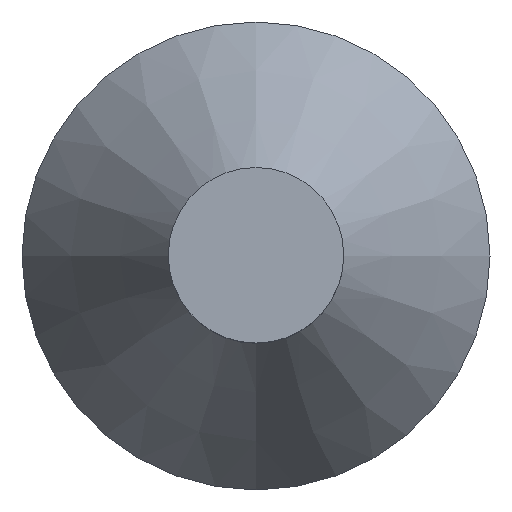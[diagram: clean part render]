
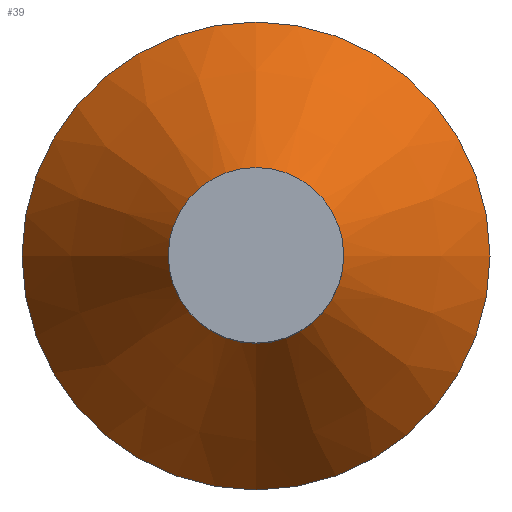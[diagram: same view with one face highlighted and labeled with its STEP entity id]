
A CAD part, top view. The second image highlights one B-rep face of the part: STEP entity #39.
In plain terms, the highlighted conical face has half-angle 32.005 degrees and reference radius 8 mm.
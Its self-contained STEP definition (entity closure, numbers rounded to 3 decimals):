
#39 = ADVANCED_FACE('',(#40),#53,.T.);
#40 = FACE_BOUND('',#41,.T.);
#41 = EDGE_LOOP('',(#42,#76,#99,#126));
#42 = ORIENTED_EDGE('',*,*,#43,.F.);
#43 = EDGE_CURVE('',#44,#44,#46,.T.);
#44 = VERTEX_POINT('',#45);
#45 = CARTESIAN_POINT('',(3.,0.,4.));
#46 = SURFACE_CURVE('',#47,(#52,#64),.PCURVE_S1.);
#47 = CIRCLE('',#48,3.);
#48 = AXIS2_PLACEMENT_3D('',#49,#50,#51);
#49 = CARTESIAN_POINT('',(0.,0.,4.));
#50 = DIRECTION('',(0.,0.,1.));
#51 = DIRECTION('',(1.,0.,-0.));
#52 = PCURVE('',#53,#58);
#53 = CONICAL_SURFACE('',#54,8.,0.559);
#54 = AXIS2_PLACEMENT_3D('',#55,#56,#57);
#55 = CARTESIAN_POINT('',(0.,0.,-4.));
#56 = DIRECTION('',(-0.,-0.,-1.));
#57 = DIRECTION('',(1.,0.,-0.));
#58 = DEFINITIONAL_REPRESENTATION('',(#59),#63);
#59 = LINE('',#60,#61);
#60 = CARTESIAN_POINT('',(-0.,-8.));
#61 = VECTOR('',#62,1.);
#62 = DIRECTION('',(-1.,-0.));
#63 = ( GEOMETRIC_REPRESENTATION_CONTEXT(2) 
PARAMETRIC_REPRESENTATION_CONTEXT() REPRESENTATION_CONTEXT('2D SPACE',''
  ) );
#64 = PCURVE('',#65,#70);
#65 = PLANE('',#66);
#66 = AXIS2_PLACEMENT_3D('',#67,#68,#69);
#67 = CARTESIAN_POINT('',(0.,0.,4.));
#68 = DIRECTION('',(0.,0.,1.));
#69 = DIRECTION('',(1.,0.,-0.));
#70 = DEFINITIONAL_REPRESENTATION('',(#71),#75);
#71 = CIRCLE('',#72,3.);
#72 = AXIS2_PLACEMENT_2D('',#73,#74);
#73 = CARTESIAN_POINT('',(0.,0.));
#74 = DIRECTION('',(1.,0.));
#75 = ( GEOMETRIC_REPRESENTATION_CONTEXT(2) 
PARAMETRIC_REPRESENTATION_CONTEXT() REPRESENTATION_CONTEXT('2D SPACE',''
  ) );
#76 = ORIENTED_EDGE('',*,*,#77,.F.);
#77 = EDGE_CURVE('',#78,#44,#80,.T.);
#78 = VERTEX_POINT('',#79);
#79 = CARTESIAN_POINT('',(8.,0.,-4.));
#80 = SEAM_CURVE('',#81,(#85,#92),.PCURVE_S1.);
#81 = LINE('',#82,#83);
#82 = CARTESIAN_POINT('',(8.,0.,-4.));
#83 = VECTOR('',#84,1.);
#84 = DIRECTION('',(-0.53,0.,0.848));
#85 = PCURVE('',#53,#86);
#86 = DEFINITIONAL_REPRESENTATION('',(#87),#91);
#87 = LINE('',#88,#89);
#88 = CARTESIAN_POINT('',(-6.283,0.));
#89 = VECTOR('',#90,1.);
#90 = DIRECTION('',(-0.,-1.));
#91 = ( GEOMETRIC_REPRESENTATION_CONTEXT(2) 
PARAMETRIC_REPRESENTATION_CONTEXT() REPRESENTATION_CONTEXT('2D SPACE',''
  ) );
#92 = PCURVE('',#53,#93);
#93 = DEFINITIONAL_REPRESENTATION('',(#94),#98);
#94 = LINE('',#95,#96);
#95 = CARTESIAN_POINT('',(0.,-0.));
#96 = VECTOR('',#97,1.);
#97 = DIRECTION('',(-0.,-1.));
#98 = ( GEOMETRIC_REPRESENTATION_CONTEXT(2) 
PARAMETRIC_REPRESENTATION_CONTEXT() REPRESENTATION_CONTEXT('2D SPACE',''
  ) );
#99 = ORIENTED_EDGE('',*,*,#100,.T.);
#100 = EDGE_CURVE('',#78,#78,#101,.T.);
#101 = SURFACE_CURVE('',#102,(#107,#114),.PCURVE_S1.);
#102 = CIRCLE('',#103,8.);
#103 = AXIS2_PLACEMENT_3D('',#104,#105,#106);
#104 = CARTESIAN_POINT('',(0.,0.,-4.));
#105 = DIRECTION('',(0.,0.,1.));
#106 = DIRECTION('',(1.,0.,-0.));
#107 = PCURVE('',#53,#108);
#108 = DEFINITIONAL_REPRESENTATION('',(#109),#113);
#109 = LINE('',#110,#111);
#110 = CARTESIAN_POINT('',(-0.,-0.));
#111 = VECTOR('',#112,1.);
#112 = DIRECTION('',(-1.,-0.));
#113 = ( GEOMETRIC_REPRESENTATION_CONTEXT(2) 
PARAMETRIC_REPRESENTATION_CONTEXT() REPRESENTATION_CONTEXT('2D SPACE',''
  ) );
#114 = PCURVE('',#115,#120);
#115 = PLANE('',#116);
#116 = AXIS2_PLACEMENT_3D('',#117,#118,#119);
#117 = CARTESIAN_POINT('',(0.,0.,-4.));
#118 = DIRECTION('',(0.,0.,1.));
#119 = DIRECTION('',(1.,0.,-0.));
#120 = DEFINITIONAL_REPRESENTATION('',(#121),#125);
#121 = CIRCLE('',#122,8.);
#122 = AXIS2_PLACEMENT_2D('',#123,#124);
#123 = CARTESIAN_POINT('',(0.,0.));
#124 = DIRECTION('',(1.,0.));
#125 = ( GEOMETRIC_REPRESENTATION_CONTEXT(2) 
PARAMETRIC_REPRESENTATION_CONTEXT() REPRESENTATION_CONTEXT('2D SPACE',''
  ) );
#126 = ORIENTED_EDGE('',*,*,#77,.T.);
